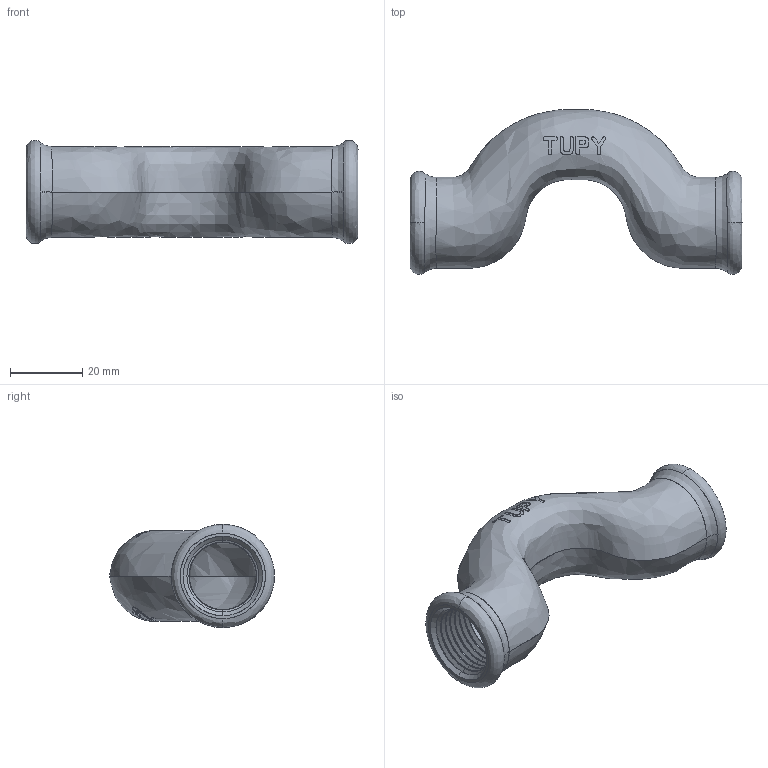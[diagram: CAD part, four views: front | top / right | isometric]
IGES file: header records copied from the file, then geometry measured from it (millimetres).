
Start section: SolidWorks IGES file using analytic representation for surfaces
Global section: file name: C:\Users\Joel Rosa\Desktop\Tubulação\12-28-XXX\12-28-076.IGS; native system: SolidWorks 2011; preprocessor: SolidWorks 2011; author: Joel Rosa; date: 121218.001453; units: millimetre
Bounding box: 92 x 45.7 x 28.6 mm (x, y, z)
Surface area: 16255.8 mm2 (no closed solid volume)
Topology: 0 solids, 0 shells, 277 faces, 3056 edges, 3056 vertices
Faces by surface type: bspline 217, revolution 60
